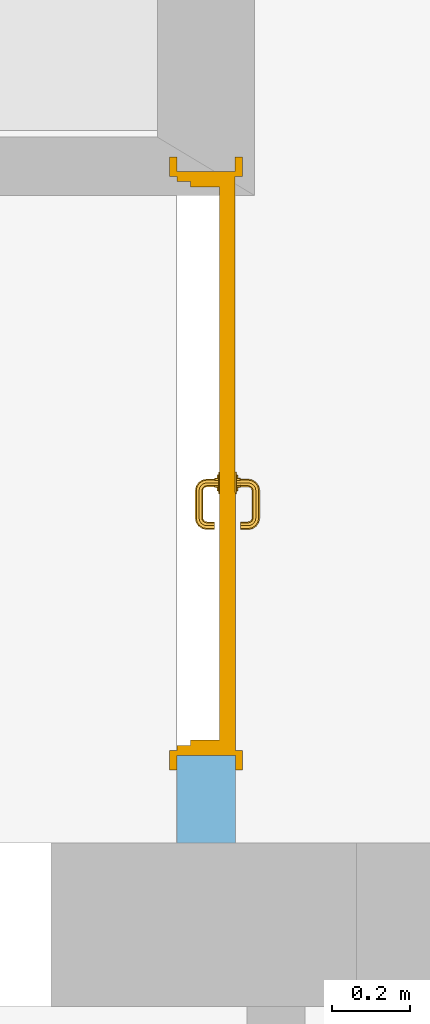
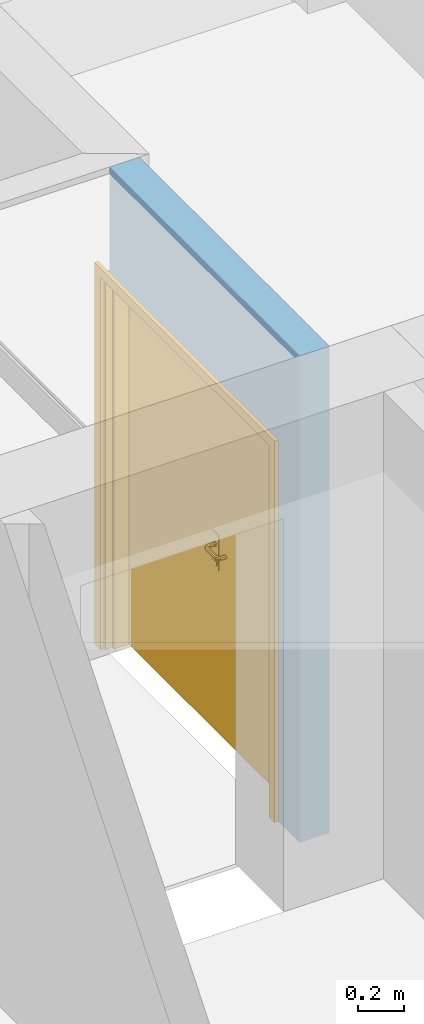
# One storey, part 59 of 127: 1 door, 1 opening, plus 1 element that does not belong to this part.
"""IFC2X3 building model written with IfcOpenShell, lengths in millimetres."""

from ifc_helpers import new_model, entity, si_unit, converted_unit, derived_unit, money_unit, direction, frame, origin_with_axes, origin_2d_with_axis, place, context, subcontext, project, spatial, polyline, rectangle, outline, extrude, open_shell, faceted_brep, surface_model, material, layer, layer_set, layer_usage, type_object, element, fill, save


model = new_model("IFC2X3")

# Units and contexts
model_context = context("Model", 3, precision=1e-05, world=origin_with_axes(), true_north=direction((0.0, 1.0)))
body_context = subcontext(model_context, "Body", "Model", "MODEL_VIEW")
ifc_project = project(units=[si_unit("LENGTHUNIT", "METRE", prefix="MILLI"), si_unit("AREAUNIT", "SQUARE_METRE"), si_unit("VOLUMEUNIT", "CUBIC_METRE"), converted_unit("PLANEANGLEUNIT", "DEGREE", entity("IfcPlaneAngleMeasure", 0.0174532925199), si_unit("PLANEANGLEUNIT", "RADIAN"), dimensions=[0, 0, 0, 0, 0, 0, 0]), si_unit("SOLIDANGLEUNIT", "STERADIAN"), money_unit("EUR"), converted_unit("TIMEUNIT", "Year", entity("IfcTimeMeasure", 31556926.0), si_unit("TIMEUNIT", "SECOND"), dimensions=[0, 0, 1, 0, 0, 0, 0]), si_unit("MASSUNIT", "GRAM", prefix="KILO"), si_unit("THERMODYNAMICTEMPERATUREUNIT", "DEGREE_CELSIUS"), si_unit("LUMINOUSINTENSITYUNIT", "LUMEN"), si_unit("ENERGYUNIT", "JOULE", prefix="MEGA"), derived_unit("THERMALCONDUCTANCEUNIT", [(si_unit("POWERUNIT", "WATT"), 1), (si_unit("LENGTHUNIT", "METRE"), -1), (si_unit("THERMODYNAMICTEMPERATUREUNIT", "KELVIN"), -1)]), derived_unit("SPECIFICHEATCAPACITYUNIT", [(si_unit("ENERGYUNIT", "JOULE"), 1), (si_unit("MASSUNIT", "GRAM", prefix="KILO"), -1), (si_unit("THERMODYNAMICTEMPERATUREUNIT", "KELVIN"), -1)]), derived_unit("MASSDENSITYUNIT", [(si_unit("MASSUNIT", "GRAM", prefix="KILO"), 1), (si_unit("VOLUMEUNIT", "CUBIC_METRE"), -1)])], contexts=[model_context])

# Site, building, storey
site_placement = place(None, origin_with_axes())
site = spatial("IfcSite", under=ifc_project, at=site_placement, Name="Site", CompositionType="ELEMENT")
building_placement = place(site_placement, origin_with_axes())
building = spatial("IfcBuilding", under=site, at=building_placement, Name="Building", CompositionType="ELEMENT")
storey_placement = place(building_placement, origin_with_axes())
storey = spatial("IfcBuildingStorey", under=building, at=storey_placement, Name="1 KORRUS", CompositionType="ELEMENT", Elevation=0.0)

# Wall, opening, door
ifc_material = material(Name="Kivi -Ol.Olev Konstruktsioon")
ifc_layer = layer(ifc_material, 150.0, ventilated="UNKNOWN")
ifc_layer_set = layer_set([ifc_layer], Name="ol.olev ss 150")
ifc_layer_usage = layer_usage(ifc_layer_set, "AXIS2", "POSITIVE", -150.0)
wall_type = type_object("IfcWallType", Name="SW - 022", PredefinedType="NOTDEFINED")
wall_placement = place(storey_placement, frame((39703.4457483, 67299.591735, 0.0), z_axis=(0.0, 0.0, 1.0), x_axis=(0.000119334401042, -0.99999999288, 0.0)))
wall = element("IfcWallStandardCase", 1, at=wall_placement, inside=storey, type_object=wall_type, material=ifc_layer_usage, Name="ol.olev ss 150", context=body_context, shape_type="SweptSolid", body=[
    extrude(outline(polyline([(0.0, -150.0), (1663.20479062, -150.0), (1663.22269078, 0.0), (0.0, 0.0), (0.0, -150.0)])), origin_with_axes(), (0.0, 0.0, 1.0), 2600.0),
])
opening_placement = place(wall_placement, frame((688.401422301, 0.0, 0.0), z_axis=(0.0, 0.0, 1.0), x_axis=(1.0, 0.0, 0.0)))
opening = element("IfcOpeningElement", 2, at=opening_placement, cuts=wall, Name="Siseuks * Double Door 22", context=body_context, shape_type="SweptSolid", body=[
    extrude(rectangle(XDim=1500.0, YDim=2000.0, at=origin_2d_with_axis()), frame((0.0, -150.0, 1000.0), z_axis=(0.0, 1.0, 0.0), x_axis=(1.0, 0.0, 0.0)), (0.0, 0.0, 1.0), 450.0),
    extrude(rectangle(XDim=1574.0, YDim=2037.0, at=origin_2d_with_axis()), frame((0.0, -150.0, 1018.5), z_axis=(0.0, 1.0, 0.0), x_axis=(1.0, 0.0, 0.0)), (0.0, 0.0, -1.0), 150.0),
    extrude(rectangle(XDim=1574.0, YDim=2037.0, at=origin_2d_with_axis()), frame((0.0, 0.0, 1018.5), z_axis=(0.0, -1.0, 0.0), x_axis=(1.0, 0.0, 0.0)), (0.0, 0.0, -1.0), 150.0),
])
door_style = type_object("IfcDoorStyle", Name="SU-A118   1\xa0500×2\xa0000", ConstructionType="NOTDEFINED", OperationType="DOUBLE_DOOR_SINGLE_SWING", ParameterTakesPrecedence=False, Sizeable=False)
door_placement = place(opening_placement, frame((-750.0, 0.0, 0.0), z_axis=(0.0, 0.0, 1.0), x_axis=(1.0, 0.0, 0.0)))
door = element("IfcDoor", 3, at=door_placement, inside=storey, type_object=door_style, Name="Siseuks * Double Door 22", OverallHeight=2000.0, OverallWidth=1500.0, context=body_context, shape_type="SurfaceModel", body=[
    faceted_brep([(-9.09494701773e-10, -115.0, 0.0), (24.9999999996, -115.0, 0.0), (24.9999999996, -150.0, 0.0), (0.0, -150.0, 0.0), (-9.09494701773e-10, -115.0, 2000.0), (24.9999999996, -115.0, 1975.0), (24.9999999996, -150.0, 1975.0), (0.0, -150.0, 2000.0)], [[[0, 1, 2, 3]], [[0, 4, 5, 1]], [[1, 5, 6, 2]], [[3, 2, 6, 7]], [[4, 0, 3, 7]], [[5, 4, 7, 6]]]),
    faceted_brep([(1500.0, -115.0, 2000.0), (1475.0, -115.0, 1975.0), (1475.0, -150.0, 1975.0), (1500.0, -150.0, 2000.0), (1500.0, -115.0, 0.0), (1475.0, -115.0, 0.0), (1475.0, -150.0, 0.0), (1500.0, -150.0, 0.0)], [[[0, 1, 2, 3]], [[0, 4, 5, 1]], [[1, 5, 6, 2]], [[3, 2, 6, 7]], [[4, 0, 3, 7]], [[5, 4, 7, 6]]]),
    faceted_brep([(24.9999999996, -115.0, 1975.0), (1475.0, -115.0, 1975.0), (1475.0, -150.0, 1975.0), (24.9999999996, -150.0, 1975.0), (-9.09494701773e-10, -115.0, 2000.0), (1500.0, -115.0, 2000.0), (1500.0, -150.0, 2000.0), (0.0, -150.0, 2000.0)], [[[0, 1, 2, 3]], [[0, 4, 5, 1]], [[1, 5, 6, 2]], [[3, 2, 6, 7]], [[4, 0, 3, 7]], [[5, 4, 7, 6]]]),
    faceted_brep([(-37.0000000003, -169.0, 0.0), (-37.0000000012, -150.0, 0.0), (12.999999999, -150.0, 0.0), (12.999999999, -169.0, 0.0), (-37.0000000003, -169.0, 2037.0), (-37.0000000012, -150.0, 2037.0), (12.999999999, -150.0, 1987.0), (12.999999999, -169.0, 1987.0)], [[[0, 1, 2, 3]], [[4, 5, 1, 0]], [[1, 5, 6, 2]], [[3, 2, 6, 7]], [[0, 3, 7, 4]], [[7, 6, 5, 4]]]),
    faceted_brep([(1537.0, -169.0, 2037.0), (1537.0, -150.0, 2037.0), (1487.0, -150.0, 1987.0), (1487.0, -169.0, 1987.0), (1537.0, -169.0, 0.0), (1537.0, -150.0, 0.0), (1487.0, -150.0, 0.0), (1487.0, -169.0, 0.0)], [[[0, 1, 2, 3]], [[4, 5, 1, 0]], [[1, 5, 6, 2]], [[3, 2, 6, 7]], [[0, 3, 7, 4]], [[7, 6, 5, 4]]]),
    faceted_brep([(-37.0000000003, -169.0, 2037.0), (-37.0000000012, -150.0, 2037.0), (12.999999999, -150.0, 1987.0), (12.999999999, -169.0, 1987.0), (1537.0, -169.0, 2037.0), (1537.0, -150.0, 2037.0), (1487.0, -150.0, 1987.0), (1487.0, -169.0, 1987.0)], [[[0, 1, 2, 3]], [[4, 5, 1, 0]], [[1, 5, 6, 2]], [[3, 2, 6, 7]], [[0, 3, 7, 4]], [[7, 6, 5, 4]]]),
    faceted_brep([(-37.0000000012, 19.0, 0.0), (12.999999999, 19.0, 0.0), (12.999999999, 0.0, 0.0), (-37.0000000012, 0.0, 0.0), (-37.0000000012, 19.0, 2037.0), (12.999999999, 19.0, 1987.0), (12.999999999, 0.0, 1987.0), (-37.0000000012, 0.0, 2037.0)], [[[0, 1, 2, 3]], [[0, 4, 5, 1]], [[1, 5, 6, 2]], [[3, 2, 6, 7]], [[4, 0, 3, 7]], [[5, 4, 7, 6]]]),
    faceted_brep([(1537.0, 18.9999999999, 2037.0), (1487.0, 19.0, 1987.0), (1487.0, 0.0, 1987.0), (1537.0, -1.13686837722e-10, 2037.0), (1537.0, 18.9999999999, 0.0), (1487.0, 19.0, 0.0), (1487.0, 0.0, 0.0), (1537.0, -1.13686837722e-10, 0.0)], [[[0, 1, 2, 3]], [[0, 4, 5, 1]], [[1, 5, 6, 2]], [[3, 2, 6, 7]], [[4, 0, 3, 7]], [[5, 4, 7, 6]]]),
    faceted_brep([(-37.0000000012, 19.0, 2037.0), (12.999999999, 19.0, 1987.0), (12.999999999, 0.0, 1987.0), (-37.0000000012, 0.0, 2037.0), (1537.0, 18.9999999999, 2037.0), (1487.0, 19.0, 1987.0), (1487.0, 0.0, 1987.0), (1537.0, -1.13686837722e-10, 2037.0)], [[[0, 1, 2, 3]], [[0, 4, 5, 1]], [[1, 5, 6, 2]], [[3, 2, 6, 7]], [[4, 0, 3, 7]], [[5, 4, 7, 6]]]),
    faceted_brep([(39.9999999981, -40.0000000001, 0.0), (39.9999999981, -40.0000000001, 1960.0), (39.9999999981, -115.0, 1960.0), (39.9999999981, -115.0, 0.0), (27.9999999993, -40.0000000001, 1960.0), (27.9999999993, -40.0000000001, 0.0), (27.9999999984, 1.13686837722e-10, 1960.0), (0.0, 0.0, 1960.0), (-9.09494701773e-10, -115.0, 1960.0), (-9.09494701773e-10, -115.0, 0.0), (0.0, 0.0, 0.0), (27.9999999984, 1.13686837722e-10, 0.0)], [[[0, 1, 2, 3]], [[4, 1, 0, 5]], [[4, 6, 7, 8, 2, 1]], [[3, 2, 8, 9]], [[5, 0, 3, 9, 10, 11]], [[6, 4, 5, 11]], [[6, 11, 10, 7]], [[10, 9, 8, 7]]]),
    faceted_brep([(1472.0, -40.0000000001, 1960.0), (1460.0, -40.0000000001, 1960.0), (1460.0, -115.0, 1960.0), (1500.0, -115.0, 1960.0), (1500.0, 0.0, 1960.0), (1472.0, 0.0, 1960.0), (1472.0, -40.0000000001, 0.0), (1460.0, -40.0000000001, 0.0), (1460.0, -115.0, 0.0), (1500.0, -115.0, 0.0), (1500.0, 0.0, 0.0), (1472.0, 0.0, 0.0)], [[[0, 1, 2, 3, 4, 5]], [[1, 0, 6, 7]], [[1, 7, 8, 2]], [[3, 2, 8, 9]], [[4, 3, 9, 10]], [[11, 5, 4, 10]], [[0, 5, 11, 6]], [[6, 11, 10, 9, 8, 7]]]),
    faceted_brep([(27.9999999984, 1.13686837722e-10, 1972.0), (27.9999999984, 1.13686837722e-10, 1960.0), (0.0, 0.0, 1960.0), (0.0, 0.0, 2000.0), (1500.0, 0.0, 2000.0), (1500.0, 0.0, 1960.0), (1472.0, 0.0, 1960.0), (1472.0, 0.0, 1972.0), (27.9999999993, -40.0000000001, 1972.0), (27.9999999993, -40.0000000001, 1960.0), (39.9999999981, -40.0000000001, 1960.0), (39.9999999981, -115.0, 1960.0), (-9.09494701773e-10, -115.0, 1960.0), (-9.09494701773e-10, -115.0, 2000.0), (1500.0, -115.0, 2000.0), (1500.0, -115.0, 1960.0), (1472.0, -40.0000000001, 1960.0), (1460.0, -115.0, 1960.0), (1460.0, -40.0000000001, 1960.0), (1472.0, -40.0000000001, 1972.0)], [[[0, 1, 2, 3, 4, 5, 6, 7]], [[1, 0, 8, 9]], [[9, 10, 11, 12, 2, 1]], [[2, 12, 13, 3]], [[3, 13, 14, 4]], [[4, 14, 15, 5]], [[16, 6, 5, 15, 17, 18]], [[7, 6, 16, 19]], [[0, 7, 19, 8]], [[16, 18, 10, 9, 8, 19]], [[10, 18, 17, 11]], [[17, 15, 14, 13, 12, 11]]]),
    faceted_brep([(771.499999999, -40.0, 1060.0), (771.5, -43.0, 1060.0), (828.499999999, -43.0, 1060.0), (828.499999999, -40.0, 1060.0), (771.499999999, -40.0, 870.0), (771.5, -43.0, 870.0), (828.499999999, -43.0, 870.0), (828.499999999, -40.0, 870.0)], [[[0, 1, 2, 3]], [[4, 5, 1, 0]], [[1, 5, 6, 2]], [[3, 2, 6, 7]], [[0, 3, 7, 4]], [[7, 6, 5, 4]]]),
    surface_model("IfcShellBasedSurfaceModel", [(809.999999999, -53.0, 1000.0), (809.999999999, -72.0150859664, 1000.0), (807.07106781, -72.303560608, 992.928932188), (807.071067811, -53.0, 992.928932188), (807.071067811, -53.0, 1007.07106781), (807.07106781, -72.303560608, 1007.07106781), (810.942203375, -76.7518622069, 1000.0), (808.183209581, -77.8946748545, 992.928932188), (799.999999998, -73.0, 990.0), (799.999999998, -53.0, 990.0), (799.999999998, -53.0, 1010.0), (799.999999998, -73.0, 1010.0), (808.183209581, -77.8946748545, 1007.07106781), (813.067462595, -79.9325374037, 1000.0), (810.955820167, -82.0441798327, 992.928932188), (801.522409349, -80.6536686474, 990.0), (792.928932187, -73.6964393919, 992.928932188), (792.928932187, -53.0000000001, 992.928932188), (792.928932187, -53.0000000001, 1007.07106781), (792.928932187, -73.6964393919, 1007.07106781), (801.522409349, -80.6536686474, 1010.0), (810.955820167, -82.0441798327, 1007.07106781), (816.248137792, -82.0577966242, 1000.0), (815.105325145, -84.816790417, 992.928932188), (805.857864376, -87.1421356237, 990.0), (794.861609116, -83.4126624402, 992.928932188), (789.999999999, -73.9849140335, 1000.0), (790.0, -53.0000000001, 1000.0), (794.861609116, -83.4126624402, 1007.07106781), (805.857864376, -87.1421356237, 1010.0), (815.105325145, -84.816790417, 1007.07106781), (820.984914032, -83.0, 1000.0), (820.69643939, -85.9289321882, 992.928932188), (812.346331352, -91.4775906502, 990.0), (800.759908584, -92.2400914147, 992.928932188), (792.102615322, -84.5554750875, 1000.0), (800.759908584, -92.2400914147, 1007.07106781), (812.346331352, -91.4775906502, 1010.0), (820.69643939, -85.9289321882, 1007.07106781), (889.015085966, -83.0, 1000.0), (889.303560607, -85.9289321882, 992.928932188), (820.0, -93.0000000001, 990.0), (809.587337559, -98.1383908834, 992.928932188), (798.648266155, -94.3517338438, 1000.0), (809.587337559, -98.1383908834, 1007.07106781), (820.0, -93.0000000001, 1010.0), (889.303560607, -85.9289321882, 1007.07106781), (893.751862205, -82.0577966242, 1000.0), (894.894674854, -84.8167904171, 992.928932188), (889.999999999, -93.0000000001, 990.0), (819.303560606, -100.071067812, 992.928932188), (808.444524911, -100.897384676, 1000.0), (819.303560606, -100.071067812, 1007.07106781), (889.999999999, -93.0000000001, 1010.0), (894.894674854, -84.8167904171, 1007.07106781), (896.932537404, -79.9325374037, 1000.0), (899.044179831, -82.0441798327, 992.928932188), (897.653668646, -91.4775906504, 990.0), (890.696439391, -100.071067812, 992.928932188), (819.015085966, -103.0, 1000.0), (890.696439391, -100.071067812, 1007.07106781), (897.653668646, -91.4775906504, 1010.0), (899.044179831, -82.0441798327, 1007.07106781), (899.057796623, -76.7518622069, 1000.0), (901.816790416, -77.8946748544, 992.928932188), (904.142135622, -87.1421356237, 990.0), (900.412662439, -98.1383908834, 992.928932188), (890.984914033, -103.0, 1000.0), (900.412662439, -98.1383908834, 1007.07106781), (904.142135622, -87.1421356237, 1010.0), (901.816790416, -77.8946748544, 1007.07106781), (900.0, -72.0150859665, 1000.0), (902.928932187, -72.303560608, 992.928932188), (908.477590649, -80.6536686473, 990.0), (909.240091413, -92.2400914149, 992.928932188), (901.555475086, -100.897384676, 1000.0), (909.240091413, -92.2400914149, 1007.07106781), (908.477590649, -80.6536686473, 1010.0), (902.928932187, -72.303560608, 1007.07106781), (900.0, -53.0000000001, 1000.0), (902.928932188, -53.0, 992.928932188), (909.999999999, -73.0, 990.0), (915.138390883, -83.4126624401, 992.928932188), (911.351733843, -94.3517338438, 1000.0), (915.138390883, -83.4126624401, 1007.07106781), (909.999999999, -73.0, 1010.0), (902.928932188, -53.0, 1007.07106781), (909.999999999, -53.0000000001, 1010.0), (917.071067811, -53.0, 1007.07106781), (919.999999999, -53.0000000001, 1000.0), (917.071067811, -53.0, 992.928932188), (909.999999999, -53.0000000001, 990.0), (917.071067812, -73.6964393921, 992.928932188), (917.897384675, -84.5554750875, 1000.0), (917.071067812, -73.6964393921, 1007.07106781), (919.999999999, -73.9849140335, 1000.0)], [open_shell([[[0, 1, 2, 3]], [[4, 5, 1, 0]], [[1, 6, 7, 2]], [[3, 2, 8, 9]], [[10, 11, 5, 4]], [[5, 12, 6, 1]], [[6, 13, 14, 7]], [[2, 7, 15, 8]], [[9, 8, 16, 17]], [[18, 19, 11, 10]], [[11, 20, 12, 5]], [[12, 21, 13, 6]], [[13, 22, 23, 14]], [[7, 14, 24, 15]], [[8, 15, 25, 16]], [[17, 16, 26, 27]], [[27, 26, 19, 18]], [[19, 28, 20, 11]], [[20, 29, 21, 12]], [[21, 30, 22, 13]], [[22, 31, 32, 23]], [[14, 23, 33, 24]], [[15, 24, 34, 25]], [[16, 25, 35, 26]], [[26, 35, 28, 19]], [[28, 36, 29, 20]], [[29, 37, 30, 21]], [[30, 38, 31, 22]], [[31, 39, 40, 32]], [[23, 32, 41, 33]], [[24, 33, 42, 34]], [[25, 34, 43, 35]], [[35, 43, 36, 28]], [[36, 44, 37, 29]], [[37, 45, 38, 30]], [[38, 46, 39, 31]], [[39, 47, 48, 40]], [[32, 40, 49, 41]], [[33, 41, 50, 42]], [[34, 42, 51, 43]], [[43, 51, 44, 36]], [[44, 52, 45, 37]], [[45, 53, 46, 38]], [[46, 54, 47, 39]], [[47, 55, 56, 48]], [[40, 48, 57, 49]], [[41, 49, 58, 50]], [[42, 50, 59, 51]], [[51, 59, 52, 44]], [[52, 60, 53, 45]], [[53, 61, 54, 46]], [[54, 62, 55, 47]], [[55, 63, 64, 56]], [[48, 56, 65, 57]], [[49, 57, 66, 58]], [[50, 58, 67, 59]], [[59, 67, 60, 52]], [[60, 68, 61, 53]], [[61, 69, 62, 54]], [[62, 70, 63, 55]], [[63, 71, 72, 64]], [[56, 64, 73, 65]], [[57, 65, 74, 66]], [[58, 66, 75, 67]], [[67, 75, 68, 60]], [[68, 76, 69, 61]], [[69, 77, 70, 62]], [[70, 78, 71, 63]], [[71, 79, 80, 72]], [[64, 72, 81, 73]], [[65, 73, 82, 74]], [[66, 74, 83, 75]], [[75, 83, 76, 68]], [[76, 84, 77, 69]], [[77, 85, 78, 70]], [[78, 86, 79, 71]], [[79, 86, 87, 88, 89, 90, 91, 80]], [[72, 80, 91, 81]], [[73, 81, 92, 82]], [[74, 82, 93, 83]], [[83, 93, 84, 76]], [[84, 94, 85, 77]], [[85, 87, 86, 78]], [[94, 88, 87, 85]], [[95, 89, 88, 94]], [[92, 90, 89, 95]], [[81, 91, 90, 92]], [[82, 92, 95, 93]], [[93, 95, 94, 84]]])]),
    faceted_brep([(810.392304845, -53.0, 994.0), (811.258330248, -43.0, 993.5), (812.999999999, -43.0, 1000.0), (811.999999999, -53.0, 1000.0), (806.0, -53.0, 989.607695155), (806.5, -43.0, 988.741669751), (799.999999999, -43.0, 987.0), (793.499999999, -43.0, 988.741669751), (788.741669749, -43.0, 993.5), (786.999999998, -43.0000000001, 1000.0), (788.741669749, -43.0, 1006.5), (793.499999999, -43.0, 1011.25833025), (799.999999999, -43.0, 1013.0), (806.5, -43.0, 1011.25833025), (811.258330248, -43.0, 1006.5), (810.392304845, -53.0, 1006.0), (806.0, -53.0, 1010.39230485), (799.999999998, -53.0, 1012.0), (793.999999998, -53.0000000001, 1010.39230485), (789.607695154, -53.0, 1006.0), (787.999999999, -53.0000000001, 1000.0), (789.607695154, -53.0, 994.0), (793.999999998, -53.0000000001, 989.607695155), (799.999999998, -53.0, 988.0)], [[[0, 1, 2, 3]], [[4, 5, 1, 0]], [[2, 1, 5, 6, 7, 8, 9, 10, 11, 12, 13, 14]], [[3, 2, 14, 15]], [[3, 15, 16, 17, 18, 19, 20, 21, 22, 23, 4, 0]], [[23, 6, 5, 4]], [[22, 7, 6, 23]], [[21, 8, 7, 22]], [[20, 9, 8, 21]], [[19, 10, 9, 20]], [[18, 11, 10, 19]], [[17, 12, 11, 18]], [[16, 13, 12, 17]], [[15, 14, 13, 16]]]),
    faceted_brep([(817.320508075, -47.0, 895.0), (819.052558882, -43.0, 894.0), (821.999999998, -42.9999999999, 905.0), (820.0, -47.0000000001, 905.0), (809.999999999, -47.0000000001, 887.679491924), (810.999999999, -43.0, 885.947441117), (799.999999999, -43.0, 883.0), (789.0, -43.0, 885.947441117), (780.947441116, -43.0, 894.0), (777.999999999, -43.0, 905.0), (780.947441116, -43.0, 916.0), (789.0, -43.0, 924.052558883), (799.999999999, -43.0, 927.0), (810.999999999, -43.0, 924.052558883), (819.052558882, -43.0, 916.0), (817.320508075, -47.0, 915.0), (809.999999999, -47.0000000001, 922.320508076), (799.999999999, -47.0, 925.0), (789.999999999, -46.9999999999, 922.320508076), (782.679491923, -47.0, 915.0), (779.999999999, -46.9999999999, 905.0), (782.679491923, -47.0, 895.0), (789.999999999, -46.9999999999, 887.679491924), (799.999999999, -47.0, 885.0)], [[[0, 1, 2, 3]], [[4, 5, 1, 0]], [[2, 1, 5, 6, 7, 8, 9, 10, 11, 12, 13, 14]], [[3, 2, 14, 15]], [[3, 15, 16, 17, 18, 19, 20, 21, 22, 23, 4, 0]], [[23, 6, 5, 4]], [[22, 7, 6, 23]], [[21, 8, 7, 22]], [[20, 9, 8, 21]], [[19, 10, 9, 20]], [[18, 11, 10, 19]], [[17, 12, 11, 18]], [[16, 13, 12, 17]], [[15, 14, 13, 16]]]),
    faceted_brep([(804.949747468, -49.0, 909.050252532), (805.656854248, -47.0000000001, 908.343145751), (807.999999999, -47.0000000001, 914.0), (806.999999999, -49.0, 914.0), (799.999999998, -49.0, 907.0), (799.999999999, -47.0, 906.0), (794.34314575, -47.0, 908.343145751), (791.999999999, -46.9999999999, 914.0), (794.34314575, -47.0, 919.656854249), (799.999999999, -47.0, 922.0), (805.656854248, -47.0000000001, 919.656854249), (804.949747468, -49.0, 918.949747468), (799.999999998, -49.0, 921.0), (795.050252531, -49.0, 918.949747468), (792.999999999, -49.0, 914.0), (795.050252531, -49.0, 909.050252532)], [[[0, 1, 2, 3]], [[4, 5, 1, 0]], [[2, 1, 5, 6, 7, 8, 9, 10]], [[3, 2, 10, 11]], [[3, 11, 12, 13, 14, 15, 4, 0]], [[15, 6, 5, 4]], [[14, 7, 6, 15]], [[13, 8, 7, 14]], [[12, 9, 8, 13]], [[11, 10, 9, 12]]]),
    faceted_brep([(771.5, 0.0, 1060.0), (828.499999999, 1.13686837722e-10, 1060.0), (828.499999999, 2.99999999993, 1060.0), (771.499999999, 2.99999999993, 1060.0), (771.5, 0.0, 870.0), (828.499999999, 1.13686837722e-10, 870.0), (828.499999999, 2.99999999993, 870.0), (771.499999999, 2.99999999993, 870.0)], [[[0, 1, 2, 3]], [[0, 4, 5, 1]], [[1, 5, 6, 2]], [[3, 2, 6, 7]], [[4, 0, 3, 7]], [[5, 4, 7, 6]]]),
    surface_model("IfcShellBasedSurfaceModel", [(809.999999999, 12.9999999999, 1000.0), (807.071067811, 13.0, 992.928932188), (807.071067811, 32.3035606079, 992.928932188), (809.999999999, 32.0150859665, 1000.0), (799.999999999, 13.0, 990.0), (799.999999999, 33.0, 990.0), (808.183209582, 37.8946748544, 992.928932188), (810.942203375, 36.751862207, 1000.0), (807.071067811, 13.0, 1007.07106781), (807.071067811, 32.3035606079, 1007.07106781), (792.928932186, 12.9999999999, 992.928932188), (792.928932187, 33.696439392, 992.928932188), (801.52240935, 40.6536686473, 990.0), (810.955820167, 42.0441798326, 992.928932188), (813.067462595, 39.9325374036, 1000.0), (808.183209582, 37.8946748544, 1007.07106781), (799.999999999, 13.0, 1010.0), (799.999999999, 33.0, 1010.0), (790.0, 13.0, 1000.0), (789.999999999, 33.9849140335, 1000.0), (794.861609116, 43.4126624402, 992.928932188), (805.857864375, 47.1421356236, 990.0), (815.105325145, 44.8167904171, 992.928932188), (816.248137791, 42.0577966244, 1000.0), (810.955820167, 42.0441798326, 1007.07106781), (801.52240935, 40.6536686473, 1010.0), (792.928932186, 12.9999999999, 1007.07106781), (792.928932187, 33.696439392, 1007.07106781), (792.102615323, 44.5554750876, 1000.0), (800.759908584, 52.2400914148, 992.928932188), (812.346331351, 51.4775906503, 990.0), (820.696439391, 45.9289321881, 992.928932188), (820.984914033, 42.9999999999, 1000.0), (815.105325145, 44.8167904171, 1007.07106781), (805.857864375, 47.1421356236, 1010.0), (794.861609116, 43.4126624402, 1007.07106781), (798.648266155, 54.3517338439, 1000.0), (809.58733756, 58.1383908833, 992.928932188), (820.0, 53.0, 990.0), (889.303560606, 45.9289321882, 992.928932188), (889.015085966, 43.0, 1000.0), (820.696439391, 45.9289321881, 1007.07106781), (812.346331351, 51.4775906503, 1010.0), (800.759908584, 52.2400914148, 1007.07106781), (808.444524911, 60.8973846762, 1000.0), (819.303560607, 60.0710678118, 992.928932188), (889.999999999, 53.0, 990.0), (894.894674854, 44.8167904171, 992.928932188), (893.751862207, 42.0577966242, 1000.0), (889.303560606, 45.9289321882, 1007.07106781), (820.0, 53.0, 1010.0), (809.58733756, 58.1383908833, 1007.07106781), (819.015085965, 63.0, 1000.0), (890.696439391, 60.0710678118, 992.928932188), (897.653668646, 51.4775906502, 990.0), (899.044179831, 42.0441798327, 992.928932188), (896.932537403, 39.9325374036, 1000.0), (894.894674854, 44.8167904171, 1007.07106781), (889.999999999, 53.0, 1010.0), (819.303560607, 60.0710678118, 1007.07106781), (890.984914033, 62.9999999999, 1000.0), (900.412662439, 58.1383908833, 992.928932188), (904.142135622, 47.1421356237, 990.0), (901.816790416, 37.8946748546, 992.928932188), (899.057796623, 36.7518622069, 1000.0), (899.044179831, 42.0441798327, 1007.07106781), (897.653668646, 51.4775906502, 1010.0), (890.696439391, 60.0710678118, 1007.07106781), (901.555475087, 60.8973846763, 1000.0), (909.240091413, 52.2400914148, 992.928932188), (908.477590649, 40.6536686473, 990.0), (902.928932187, 32.3035606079, 992.928932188), (900.0, 32.0150859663, 1000.0), (901.816790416, 37.8946748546, 1007.07106781), (904.142135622, 47.1421356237, 1010.0), (900.412662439, 58.1383908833, 1007.07106781), (911.351733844, 54.3517338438, 1000.0), (915.138390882, 43.4126624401, 992.928932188), (909.999999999, 33.0, 990.0), (902.928932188, 13.0, 992.928932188), (900.0, 12.9999999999, 1000.0), (902.928932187, 32.3035606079, 1007.07106781), (908.477590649, 40.6536686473, 1010.0), (909.240091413, 52.2400914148, 1007.07106781), (917.897384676, 44.5554750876, 1000.0), (917.071067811, 33.6964393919, 992.928932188), (909.999999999, 13.0, 990.0), (917.071067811, 13.0, 992.928932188), (919.999999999, 13.0, 1000.0), (917.071067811, 13.0, 1007.07106781), (909.999999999, 13.0, 1010.0), (902.928932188, 13.0, 1007.07106781), (909.999999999, 33.0, 1010.0), (915.138390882, 43.4126624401, 1007.07106781), (919.999999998, 33.9849140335, 1000.0), (917.071067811, 33.6964393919, 1007.07106781)], [open_shell([[[0, 1, 2, 3]], [[1, 4, 5, 2]], [[3, 2, 6, 7]], [[8, 0, 3, 9]], [[4, 10, 11, 5]], [[2, 5, 12, 6]], [[7, 6, 13, 14]], [[9, 3, 7, 15]], [[16, 8, 9, 17]], [[10, 18, 19, 11]], [[5, 11, 20, 12]], [[6, 12, 21, 13]], [[14, 13, 22, 23]], [[15, 7, 14, 24]], [[17, 9, 15, 25]], [[26, 16, 17, 27]], [[18, 26, 27, 19]], [[11, 19, 28, 20]], [[12, 20, 29, 21]], [[13, 21, 30, 22]], [[23, 22, 31, 32]], [[24, 14, 23, 33]], [[25, 15, 24, 34]], [[27, 17, 25, 35]], [[19, 27, 35, 28]], [[20, 28, 36, 29]], [[21, 29, 37, 30]], [[22, 30, 38, 31]], [[32, 31, 39, 40]], [[33, 23, 32, 41]], [[34, 24, 33, 42]], [[35, 25, 34, 43]], [[28, 35, 43, 36]], [[29, 36, 44, 37]], [[30, 37, 45, 38]], [[31, 38, 46, 39]], [[40, 39, 47, 48]], [[41, 32, 40, 49]], [[42, 33, 41, 50]], [[43, 34, 42, 51]], [[36, 43, 51, 44]], [[37, 44, 52, 45]], [[38, 45, 53, 46]], [[39, 46, 54, 47]], [[48, 47, 55, 56]], [[49, 40, 48, 57]], [[50, 41, 49, 58]], [[51, 42, 50, 59]], [[44, 51, 59, 52]], [[45, 52, 60, 53]], [[46, 53, 61, 54]], [[47, 54, 62, 55]], [[56, 55, 63, 64]], [[57, 48, 56, 65]], [[58, 49, 57, 66]], [[59, 50, 58, 67]], [[52, 59, 67, 60]], [[53, 60, 68, 61]], [[54, 61, 69, 62]], [[55, 62, 70, 63]], [[64, 63, 71, 72]], [[65, 56, 64, 73]], [[66, 57, 65, 74]], [[67, 58, 66, 75]], [[60, 67, 75, 68]], [[61, 68, 76, 69]], [[62, 69, 77, 70]], [[63, 70, 78, 71]], [[72, 71, 79, 80]], [[73, 64, 72, 81]], [[74, 65, 73, 82]], [[75, 66, 74, 83]], [[68, 75, 83, 76]], [[69, 76, 84, 77]], [[70, 77, 85, 78]], [[71, 78, 86, 79]], [[80, 79, 86, 87, 88, 89, 90, 91]], [[81, 72, 80, 91]], [[82, 73, 81, 92]], [[83, 74, 82, 93]], [[76, 83, 93, 84]], [[77, 84, 94, 85]], [[78, 85, 87, 86]], [[85, 94, 88, 87]], [[94, 95, 89, 88]], [[95, 92, 90, 89]], [[92, 81, 91, 90]], [[93, 82, 92, 95]], [[84, 93, 95, 94]]])]),
    faceted_brep([(810.392304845, 12.9999999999, 994.0), (811.999999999, 12.9999999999, 1000.0), (812.999999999, 3.00000000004, 1000.0), (811.258330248, 3.00000000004, 993.5), (806.0, 13.0, 989.607695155), (799.999999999, 13.0, 988.0), (793.999999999, 13.0, 989.607695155), (789.607695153, 13.0, 994.0), (787.999999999, 13.0, 1000.0), (789.607695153, 13.0, 1006.0), (793.999999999, 13.0, 1010.39230485), (799.999999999, 13.0, 1012.0), (806.0, 13.0, 1010.39230485), (810.392304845, 12.9999999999, 1006.0), (811.258330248, 3.00000000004, 1006.5), (806.499999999, 3.00000000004, 1011.25833025), (800.0, 2.99999999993, 1013.0), (793.499999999, 2.99999999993, 1011.25833025), (788.741669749, 3.00000000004, 1006.5), (786.999999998, 3.00000000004, 1000.0), (788.741669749, 3.00000000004, 993.5), (793.499999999, 2.99999999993, 988.741669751), (800.0, 2.99999999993, 987.0), (806.499999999, 3.00000000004, 988.741669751)], [[[0, 1, 2, 3]], [[1, 0, 4, 5, 6, 7, 8, 9, 10, 11, 12, 13]], [[1, 13, 14, 2]], [[2, 14, 15, 16, 17, 18, 19, 20, 21, 22, 23, 3]], [[4, 0, 3, 23]], [[5, 4, 23, 22]], [[6, 5, 22, 21]], [[7, 6, 21, 20]], [[8, 7, 20, 19]], [[9, 8, 19, 18]], [[10, 9, 18, 17]], [[11, 10, 17, 16]], [[12, 11, 16, 15]], [[13, 12, 15, 14]]]),
    faceted_brep([(817.320508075, 6.99999999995, 895.0), (819.999999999, 7.00000000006, 905.0), (821.999999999, 3.00000000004, 905.0), (819.052558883, 3.00000000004, 894.0), (809.999999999, 6.99999999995, 887.679491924), (799.999999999, 6.99999999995, 885.0), (789.999999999, 6.99999999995, 887.679491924), (782.679491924, 6.99999999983, 895.0), (779.999999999, 7.00000000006, 905.0), (782.679491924, 6.99999999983, 915.0), (789.999999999, 6.99999999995, 922.320508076), (799.999999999, 6.99999999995, 925.0), (809.999999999, 6.99999999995, 922.320508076), (817.320508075, 6.99999999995, 915.0), (819.052558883, 3.00000000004, 916.0), (810.999999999, 3.00000000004, 924.052558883), (800.0, 2.99999999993, 927.0), (788.999999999, 3.00000000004, 924.052558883), (780.947441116, 2.99999999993, 916.0), (777.999999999, 3.00000000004, 905.0), (780.947441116, 2.99999999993, 894.0), (788.999999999, 3.00000000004, 885.947441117), (800.0, 2.99999999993, 883.0), (810.999999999, 3.00000000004, 885.947441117)], [[[0, 1, 2, 3]], [[1, 0, 4, 5, 6, 7, 8, 9, 10, 11, 12, 13]], [[1, 13, 14, 2]], [[2, 14, 15, 16, 17, 18, 19, 20, 21, 22, 23, 3]], [[4, 0, 3, 23]], [[5, 4, 23, 22]], [[6, 5, 22, 21]], [[7, 6, 21, 20]], [[8, 7, 20, 19]], [[9, 8, 19, 18]], [[10, 9, 18, 17]], [[11, 10, 17, 16]], [[12, 11, 16, 15]], [[13, 12, 15, 14]]]),
    faceted_brep([(804.949747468, 8.9999999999, 909.050252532), (807.0, 8.9999999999, 914.0), (807.999999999, 6.99999999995, 914.0), (805.656854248, 6.99999999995, 908.343145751), (799.999999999, 9.00000000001, 907.0), (795.05025253, 8.9999999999, 909.050252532), (792.999999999, 8.9999999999, 914.0), (795.05025253, 8.9999999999, 918.949747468), (799.999999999, 9.00000000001, 921.0), (804.949747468, 8.9999999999, 918.949747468), (805.656854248, 6.99999999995, 919.656854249), (799.999999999, 6.99999999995, 922.0), (794.34314575, 6.99999999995, 919.656854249), (791.999999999, 6.99999999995, 914.0), (794.34314575, 6.99999999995, 908.343145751), (799.999999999, 6.99999999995, 906.0)], [[[0, 1, 2, 3]], [[1, 0, 4, 5, 6, 7, 8, 9]], [[1, 9, 10, 2]], [[2, 10, 11, 12, 13, 14, 15, 3]], [[4, 0, 3, 15]], [[5, 4, 15, 14]], [[6, 5, 14, 13]], [[7, 6, 13, 12]], [[8, 7, 12, 11]], [[9, 8, 11, 10]]]),
    faceted_brep([(1472.0, 0.0, 0.0), (1472.0, -40.0000000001, 0.0), (749.999999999, -40.0000000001, 0.0), (749.999999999, 0.0, 0.0), (1472.0, 0.0, 1972.0), (1472.0, -40.0000000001, 1972.0), (749.999999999, -40.0000000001, 1972.0), (749.999999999, 0.0, 1972.0)], [[[0, 1, 2, 3]], [[4, 5, 1, 0]], [[1, 5, 6, 2]], [[3, 2, 6, 7]], [[0, 3, 7, 4]], [[7, 6, 5, 4]]]),
    faceted_brep([(27.9999999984, 1.13686837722e-10, 0.0), (749.999999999, 0.0, 0.0), (749.999999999, -40.0000000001, 0.0), (27.9999999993, -40.0000000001, 0.0), (27.9999999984, 1.13686837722e-10, 1972.0), (749.999999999, 0.0, 1972.0), (749.999999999, -40.0000000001, 1972.0), (27.9999999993, -40.0000000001, 1972.0)], [[[0, 1, 2, 3]], [[0, 4, 5, 1]], [[1, 5, 6, 2]], [[3, 2, 6, 7]], [[4, 0, 3, 7]], [[5, 4, 7, 6]]]),
])
fill(opening, door)

save(model, "model.ifc")
